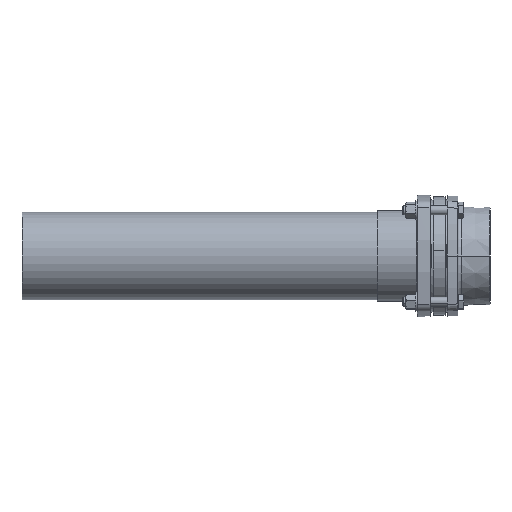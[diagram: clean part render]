
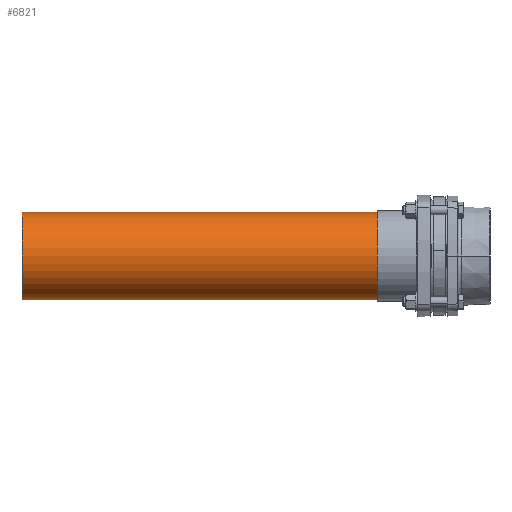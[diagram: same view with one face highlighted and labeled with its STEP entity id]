
A CAD part, front view. The second image highlights one B-rep face of the part: STEP entity #6821.
In plain terms, the highlighted cylindrical face has radius 55.25 mm (diameter 110.5 mm), a partial arc.
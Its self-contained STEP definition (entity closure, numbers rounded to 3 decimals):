
#2381 = EDGE_CURVE ( 'NONE', #4589, #7651, #7183, .T. ) ;
#2392 = EDGE_CURVE ( 'NONE', #7651, #4584, #11890, .T. ) ;
#2410 = EDGE_CURVE ( 'NONE', #4589, #4585, #2664, .T. ) ;
#2488 = EDGE_LOOP ( 'NONE', ( #8824, #8825, #8826, #8827 ) ) ;
#2625 = AXIS2_PLACEMENT_3D ( 'NONE', #5927, #5928, #5929 ) ;
#2664 = CIRCLE ( 'NONE', #2625, 55.25 ) ;
#2995 = DIRECTION ( 'NONE',  ( -1., 0., 0. ) ) ;
#3006 = FACE_OUTER_BOUND ( 'NONE', #2488, .T. ) ;
#3007 = CARTESIAN_POINT ( 'NONE',  ( -18., 0., 0. ) ) ;
#3009 = CYLINDRICAL_SURFACE ( 'NONE', #3304, 55.25 ) ;
#3010 = DIRECTION ( 'NONE',  ( 0., 0., 1. ) ) ;
#3304 = AXIS2_PLACEMENT_3D ( 'NONE', #3007, #2995, #3010 ) ;
#3940 = CARTESIAN_POINT ( 'NONE',  ( -18., 0., -55.25 ) ) ;
#3947 = LINE ( 'NONE', #3940, #11319 ) ;
#3951 = DIRECTION ( 'NONE',  ( -1., 0., 0. ) ) ;
#4584 = VERTEX_POINT ( 'NONE', #6257 ) ;
#4585 = VERTEX_POINT ( 'NONE', #6258 ) ;
#4589 = VERTEX_POINT ( 'NONE', #6262 ) ;
#5927 = CARTESIAN_POINT ( 'NONE',  ( -18., 0., 0. ) ) ;
#5928 = DIRECTION ( 'NONE',  ( 1., 0., 0. ) ) ;
#5929 = DIRECTION ( 'NONE',  ( 0., 0., -1. ) ) ;
#6257 = CARTESIAN_POINT ( 'NONE',  ( -518., 0., -55.25 ) ) ;
#6258 = CARTESIAN_POINT ( 'NONE',  ( -18., 0., -55.25 ) ) ;
#6262 = CARTESIAN_POINT ( 'NONE',  ( -18., 0., 55.25 ) ) ;
#6821 = ADVANCED_FACE ( 'NONE', ( #3006 ), #3009, .T. ) ;
#7183 = LINE ( 'NONE', #7192, #11912 ) ;
#7192 = CARTESIAN_POINT ( 'NONE',  ( -18., 0., 55.25 ) ) ;
#7193 = DIRECTION ( 'NONE',  ( -1., 0., 0. ) ) ;
#7226 = CARTESIAN_POINT ( 'NONE',  ( -518., 0., 0. ) ) ;
#7227 = DIRECTION ( 'NONE',  ( 1., 0., 0. ) ) ;
#7228 = DIRECTION ( 'NONE',  ( 0., 0., -1. ) ) ;
#7651 = VERTEX_POINT ( 'NONE', #10813 ) ;
#8824 = ORIENTED_EDGE ( 'NONE', *, *, #11861, .F. ) ;
#8825 = ORIENTED_EDGE ( 'NONE', *, *, #2410, .F. ) ;
#8826 = ORIENTED_EDGE ( 'NONE', *, *, #2381, .T. ) ;
#8827 = ORIENTED_EDGE ( 'NONE', *, *, #2392, .T. ) ;
#10813 = CARTESIAN_POINT ( 'NONE',  ( -518., 0., 55.25 ) ) ;
#11319 = VECTOR ( 'NONE', #3951, 1000. ) ;
#11861 = EDGE_CURVE ( 'NONE', #4585, #4584, #3947, .T. ) ;
#11890 = CIRCLE ( 'NONE', #11923, 55.25 ) ;
#11912 = VECTOR ( 'NONE', #7193, 1000. ) ;
#11923 = AXIS2_PLACEMENT_3D ( 'NONE', #7226, #7227, #7228 ) ;
